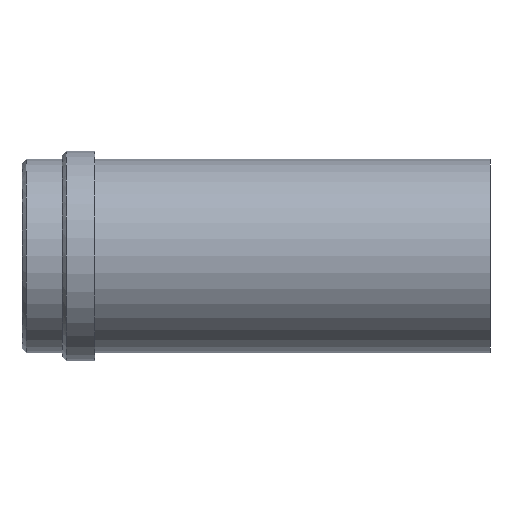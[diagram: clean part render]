
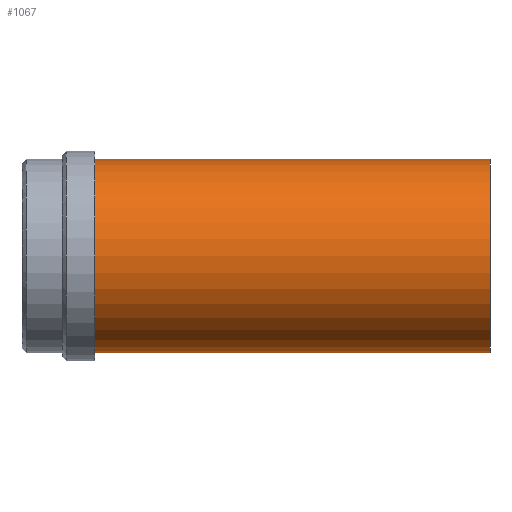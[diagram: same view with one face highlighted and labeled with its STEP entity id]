
A CAD part, front view. The second image highlights one B-rep face of the part: STEP entity #1067.
In plain terms, the highlighted cylindrical face has radius 24 mm (diameter 48 mm), a partial arc.
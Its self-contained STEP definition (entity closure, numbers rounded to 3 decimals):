
#953=CARTESIAN_POINT('Vertex',(0.,0.,-24.)) ;
#958=CARTESIAN_POINT('Axis2P3D Location',(0.,0.,0.)) ;
#962=CARTESIAN_POINT('Vertex',(0.,-24.,0.)) ;
#965=CARTESIAN_POINT('Axis2P3D Location',(0.,0.,0.)) ;
#969=CARTESIAN_POINT('Vertex',(0.,0.,24.)) ;
#995=CARTESIAN_POINT('Vertex',(98.,0.,24.)) ;
#998=CARTESIAN_POINT('Axis2P3D Location',(98.,0.,0.)) ;
#1002=CARTESIAN_POINT('Vertex',(98.,-24.,0.)) ;
#1005=CARTESIAN_POINT('Axis2P3D Location',(98.,0.,0.)) ;
#1009=CARTESIAN_POINT('Vertex',(98.,0.,-24.)) ;
#1035=CARTESIAN_POINT('Line Origine',(98.,0.,24.)) ;
#1040=CARTESIAN_POINT('Line Origine',(98.,0.,-24.)) ;
#1054=CARTESIAN_POINT('Axis2P3D Location',(98.,0.,0.)) ;
#959=DIRECTION('Axis2P3D Direction',(1.,0.,-0.)) ;
#966=DIRECTION('Axis2P3D Direction',(1.,0.,-0.)) ;
#999=DIRECTION('Axis2P3D Direction',(1.,0.,-0.)) ;
#1006=DIRECTION('Axis2P3D Direction',(1.,0.,-0.)) ;
#1036=DIRECTION('Vector Direction',(-1.,0.,0.)) ;
#1041=DIRECTION('Vector Direction',(-1.,0.,0.)) ;
#1055=DIRECTION('Axis2P3D Direction',(-1.,-0.,-0.)) ;
#1056=DIRECTION('Axis2P3D XDirection',(0.,0.,-1.)) ;
#960=AXIS2_PLACEMENT_3D('Circle Axis2P3D',#958,#959,$) ;
#967=AXIS2_PLACEMENT_3D('Circle Axis2P3D',#965,#966,$) ;
#1000=AXIS2_PLACEMENT_3D('Circle Axis2P3D',#998,#999,$) ;
#1007=AXIS2_PLACEMENT_3D('Circle Axis2P3D',#1005,#1006,$) ;
#1057=AXIS2_PLACEMENT_3D('Cylinder Axis2P3D',#1054,#1055,#1056) ;
#1060=ORIENTED_EDGE('',*,*,#1044,.T.) ;
#1061=ORIENTED_EDGE('',*,*,#1011,.F.) ;
#1062=ORIENTED_EDGE('',*,*,#1004,.F.) ;
#1063=ORIENTED_EDGE('',*,*,#1039,.T.) ;
#1064=ORIENTED_EDGE('',*,*,#971,.T.) ;
#1065=ORIENTED_EDGE('',*,*,#964,.T.) ;
#1037=VECTOR('Line Direction',#1036,1.) ;
#1042=VECTOR('Line Direction',#1041,1.) ;
#1067=ADVANCED_FACE('358-40X116',(#1066),#1058,.T.) ;
#961=CIRCLE('generated circle',#960,24.) ;
#968=CIRCLE('generated circle',#967,24.) ;
#1001=CIRCLE('generated circle',#1000,24.) ;
#1008=CIRCLE('generated circle',#1007,24.) ;
#1058=CYLINDRICAL_SURFACE('generated cylinder',#1057,24.) ;
#964=EDGE_CURVE('',#963,#954,#961,.T.) ;
#971=EDGE_CURVE('',#970,#963,#968,.T.) ;
#1004=EDGE_CURVE('',#996,#1003,#1001,.T.) ;
#1011=EDGE_CURVE('',#1003,#1010,#1008,.T.) ;
#1039=EDGE_CURVE('',#996,#970,#1038,.T.) ;
#1044=EDGE_CURVE('',#954,#1010,#1043,.F.) ;
#1059=EDGE_LOOP('',(#1060,#1061,#1062,#1063,#1064,#1065)) ;
#1066=FACE_OUTER_BOUND('',#1059,.T.) ;
#1038=LINE('Line',#1035,#1037) ;
#1043=LINE('Line',#1040,#1042) ;
#954=VERTEX_POINT('',#953) ;
#963=VERTEX_POINT('',#962) ;
#970=VERTEX_POINT('',#969) ;
#996=VERTEX_POINT('',#995) ;
#1003=VERTEX_POINT('',#1002) ;
#1010=VERTEX_POINT('',#1009) ;
